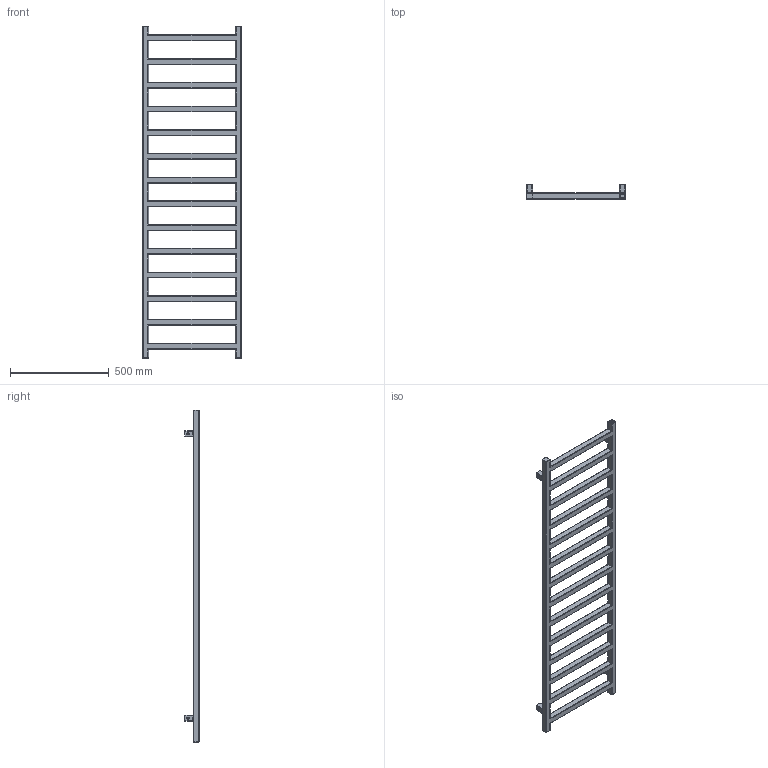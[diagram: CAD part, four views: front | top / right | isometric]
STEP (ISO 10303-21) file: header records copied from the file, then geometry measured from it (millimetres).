
FILE_DESCRIPTION((''),'2;1');
FILE_NAME('Z:\R\G\P\RGP035 - Grzejnik Simple\Work\Inventor\Marketing\AutoCad 3D\SIM-1680-500-1-5-8.stp','2012-07-12T14:53:22',('KurKa'),(''),'Autodesk Inventor 2012','Autodesk Inventor 2012','');
FILE_SCHEMA(('AUTOMOTIVE_DESIGN { 1 0 10303 214 1 1 1 1 }'));
Length unit declared in the file: millimetre
Products named in the file (3): SIM-1680-500-1-5-8; MMT42_marketing
Assembly tree (5 placements, depth 2):
  SIM-1680-500-1-5-8
    SIM-1680-500-1-5-8
    MMT42_marketing  x4
Bounding box: 506 x 72 x 1680 mm (x, y, z)
Volume: 8660440.7 mm3; surface area: 1116146.8 mm2
Topology: 5 solids, 5 shells, 427 faces, 1099 edges, 705 vertices
Faces by surface type: cylinder 195, plane 177, cone 24, torus 19, bspline 12
Full cylindrical faces by diameter (mm): 4.134 x4, 4.509 x4, 10 x4, 12 x4, 18.631 x3
Entity records: 10783 total; most frequent: CARTESIAN_POINT 3548, ORIENTED_EDGE 1496, DIRECTION 1450, EDGE_CURVE 748, AXIS2_PLACEMENT_3D 530, VERTEX_POINT 496, VECTOR 390, LINE 390
